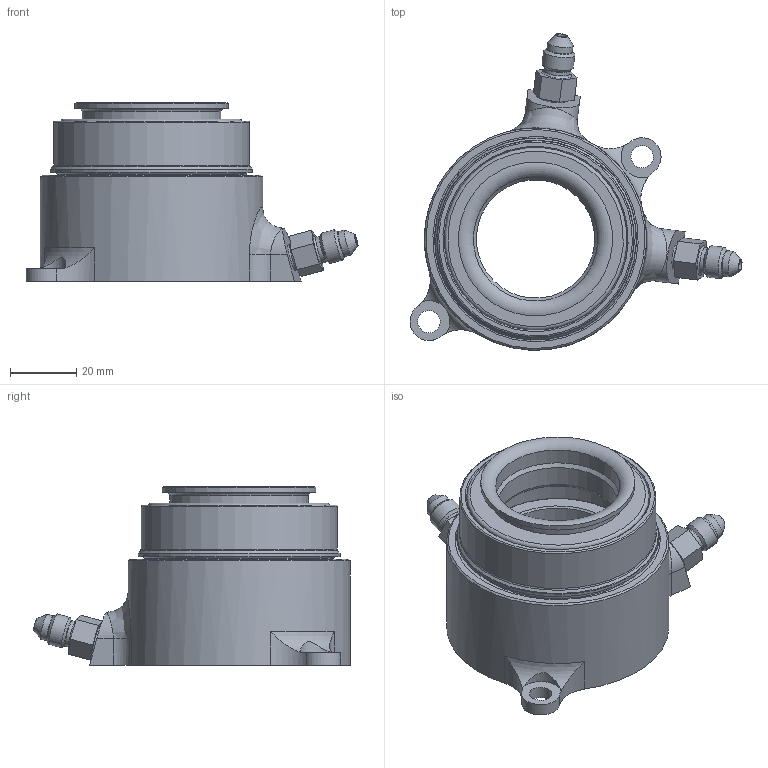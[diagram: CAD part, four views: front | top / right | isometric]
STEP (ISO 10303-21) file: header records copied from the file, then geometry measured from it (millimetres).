
FILE_DESCRIPTION(/* description */ ('Unknown'),/* implementation_level */ '2;1');
FILE_NAME(/* name */ '60-8230',/* time_stamp */ '2024-07-01T11:16:50-07:00',/* author */ ('Unknown'),/* organization */ ('Unknown'),/* preprocessor_version */ 'ST-DEVELOPER v18.104',/* originating_system */ 'Solid Edge',/* authorisation */ 'Unknown');
FILE_SCHEMA (('AUTOMOTIVE_DESIGN {1 0 10303 214 3 1 1}'));
Length unit declared in the file: millimetre
Products named in the file (1): 60-8230
Bounding box: 100.12 x 95.47 x 53.91 mm (x, y, z)
Volume: 108642.5 mm3; surface area: 31969.1 mm2
Topology: 1 solids, 1 shells, 117 faces, 282 edges, 184 vertices
Faces by surface type: cylinder 39, plane 39, torus 22, cone 15, bspline 2
Full cylindrical faces by diameter (mm): 3.175 x2, 6.756 x2, 7.734 x2, 7.925 x4, 9.525 x2, 35.7 x1, 37.49 x1, 38.1 x1, 41.984 x1, 46.457 x1, 47.714 x1, 54.991 x1, 54.997 x1, 57.061 x1, 59.182 x1, 60.96 x1, 61.925 x1, 67.056 x1
Entity records: 4152 total; most frequent: CARTESIAN_POINT 962, DIRECTION 510, ORIENTED_EDGE 378, AXIS2_PLACEMENT_3D 220, EDGE_LOOP 200, FACE_BOUND 200, EDGE_CURVE 189, VERTEX_POINT 151
